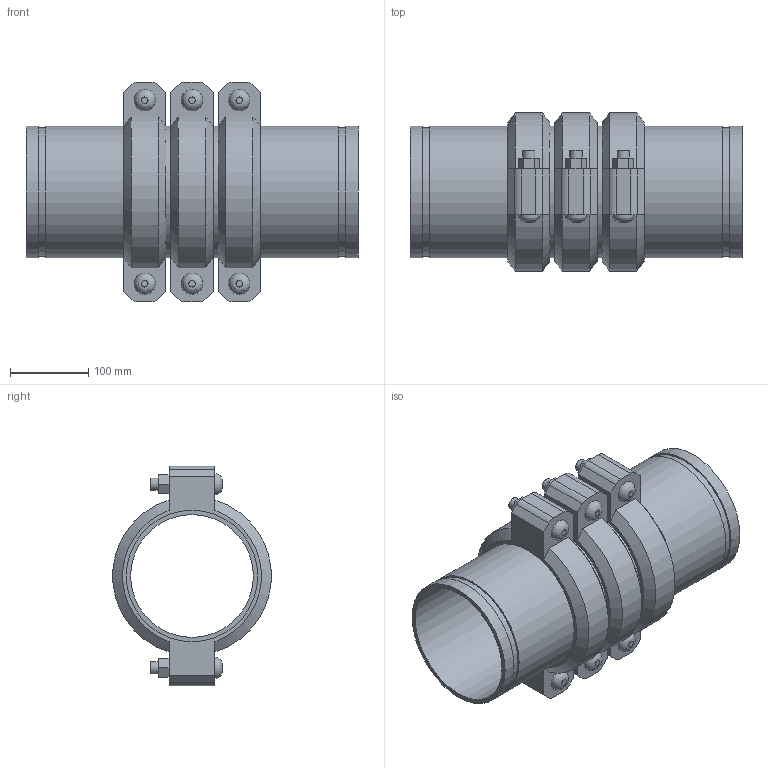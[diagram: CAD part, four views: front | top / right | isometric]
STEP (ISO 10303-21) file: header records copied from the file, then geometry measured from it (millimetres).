
FILE_DESCRIPTION(/* description */ ('VIC SS EXPANSION JOINT 3 COUPLINGS COMPRESSED STYLE 155P (OGS) (POTABLE WATER) ','CAx-IF Rec.Pracs.---Representation and Presentation of Product Manufacturing Information (PMI)---4.0---2014-10-13'),/* implementation_level */ '2;1');
FILE_NAME(/* name */ 'C:\Users\kkamble\AppData\Roaming\Autodesk\ApplicationPlugins\Victaulic.Temp\A254\Victaulic_SS_Expansion Joint_Compressed_3 Couplings_Style 155P (OGS)-Potable Water_3 Coup_Comp_6 (150).stp',/* time_stamp */ '2021-07-16T17:10:56+06:00',/* author */ ('kkamble'),/* organization */ ('Victaulic'),/* preprocessor_version */ 'ST-DEVELOPER v17.2',/* originating_system */ 'Autodesk Inventor 2019',/* authorisation */ '');
FILE_SCHEMA (('AP242_MANAGED_MODEL_BASED_3D_ENGINEERING_MIM_LF { 1 0 10303 442 1 1 4 }'));
Length unit declared in the file: inch
Products named in the file (4): 155P-06.0; Nipple-06.0; Nipple-06.0_1; 075-06.0
Assembly tree (7 placements, depth 2):
  155P-06.0
    Nipple-06.0  x2
    Nipple-06.0_1  x2
    075-06.0  x3
Bounding box: 424.94 x 202.46 x 281.18 mm (x, y, z)
Volume: 3371272.1 mm3; surface area: 804081 mm2
Topology: 7 solids, 13 shells, 207 faces, 501 edges, 354 vertices
Faces by surface type: plane 126, cylinder 63, cone 12, bspline 6
Full cylindrical faces by diameter (mm): 15.875 x12, 17.424 x6, 157.15 x4, 163.957 x8, 168.275 x15
Entity records: 2657 total; most frequent: CARTESIAN_POINT 477, DIRECTION 439, ORIENTED_EDGE 374, EDGE_CURVE 187, AXIS2_PLACEMENT_3D 174, VERTEX_POINT 134, EDGE_LOOP 101, LINE 91
